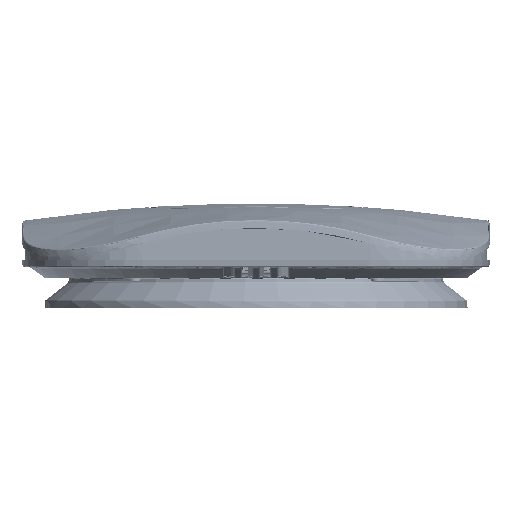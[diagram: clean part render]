
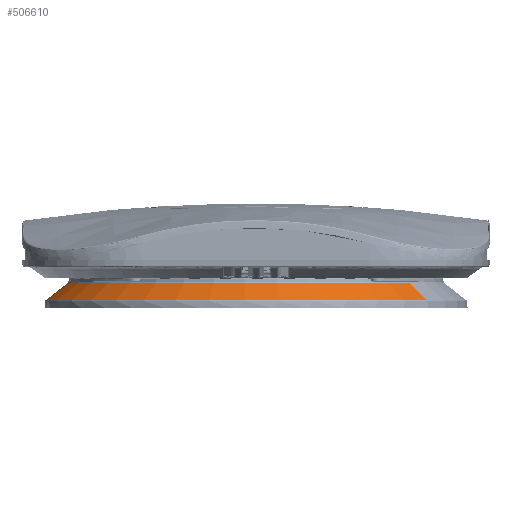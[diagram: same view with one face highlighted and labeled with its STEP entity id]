
A CAD part, front view. The second image highlights one B-rep face of the part: STEP entity #506610.
In plain terms, the highlighted conical face has half-angle 51.977 degrees and reference radius 131.973 mm.
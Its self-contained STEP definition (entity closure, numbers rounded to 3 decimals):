
#491305=CARTESIAN_POINT('',(0.,0.,
243.599));
#491306=DIRECTION('',(0.,0.,1.));
#491307=DIRECTION('',(-0.814,0.581,0.));
#491308=AXIS2_PLACEMENT_3D('',#491305,#491306,#491307);
#491325=CARTESIAN_POINT('',(0.,0.,
243.599));
#491326=DIRECTION('',(0.,0.,1.));
#491327=DIRECTION('',(-1.,0.,0.));
#491328=AXIS2_PLACEMENT_3D('',#491325,#491326,#491327);
#491347=DIRECTION('',(0.641,-0.458,-0.616));
#491348=VECTOR('',#491347,19.054);
#491349=CARTESIAN_POINT('',(101.296,-72.33,
243.599));
#491350=LINE('',#491349,#491348);
#491351=DIRECTION('',(-0.641,0.458,-0.616));
#491352=VECTOR('',#491351,19.054);
#491353=CARTESIAN_POINT('',(-101.296,72.33,
243.599));
#491354=LINE('',#491353,#491352);
#491355=CARTESIAN_POINT('',(0.,0.,
231.862));
#491356=DIRECTION('',(0.,0.,-1.));
#491357=DIRECTION('',(0.814,-0.581,0.));
#491358=AXIS2_PLACEMENT_3D('',#491355,#491356,#491357);
#491375=CARTESIAN_POINT('',(-139.478,0.,
231.862));
#491399=CARTESIAN_POINT('',(0.,0.,
231.862));
#491400=DIRECTION('',(0.,0.,-1.));
#491401=DIRECTION('',(-1.,0.,0.));
#491402=AXIS2_PLACEMENT_3D('',#491399,#491400,#491401);
#500186=VERTEX_POINT('',#491375);
#500187=CARTESIAN_POINT('',(-113.511,81.052,
231.862));
#500188=VERTEX_POINT('',#500187);
#500191=CARTESIAN_POINT('',(-101.296,72.33,
243.599));
#500192=CARTESIAN_POINT('',(-124.468,0.,
243.599));
#500193=VERTEX_POINT('',#500191);
#500194=VERTEX_POINT('',#500192);
#501142=CARTESIAN_POINT('',(101.296,-72.33,
243.599));
#501143=CARTESIAN_POINT('',(113.511,-81.052,
231.862));
#501144=VERTEX_POINT('',#501142);
#501145=VERTEX_POINT('',#501143);
#506595=CARTESIAN_POINT('',(0.,0.,
237.731));
#506596=DIRECTION('',(0.,0.,-1.));
#506597=DIRECTION('',(0.814,-0.581,0.));
#506598=AXIS2_PLACEMENT_3D('',#506595,#506596,#506597);
#506599=CONICAL_SURFACE('',#506598,131.973,51.977);
#506600=ORIENTED_EDGE('',*,*,#506582,.T.);
#506602=ORIENTED_EDGE('',*,*,#506601,.T.);
#506604=ORIENTED_EDGE('',*,*,#506603,.T.);
#506605=ORIENTED_EDGE('',*,*,#506586,.F.);
#506606=ORIENTED_EDGE('',*,*,#506551,.T.);
#506607=ORIENTED_EDGE('',*,*,#506568,.T.);
#506608=EDGE_LOOP('',(#506600,#506602,#506604,#506605,#506606,#506607));
#506609=FACE_OUTER_BOUND('',#506608,.F.);
#506610=ADVANCED_FACE('',(#506609),#506599,.T.);
#491309=CIRCLE('',#491308,124.468);
#491329=CIRCLE('',#491328,124.468);
#491359=CIRCLE('',#491358,139.478);
#491403=CIRCLE('',#491402,139.478);
#506551=EDGE_CURVE('',#500193,#500194,#491309,.T.);
#506568=EDGE_CURVE('',#500194,#501144,#491329,.T.);
#506582=EDGE_CURVE('',#501144,#501145,#491350,.T.);
#506586=EDGE_CURVE('',#500193,#500188,#491354,.T.);
#506601=EDGE_CURVE('',#501145,#500186,#491359,.T.);
#506603=EDGE_CURVE('',#500186,#500188,#491403,.T.);
